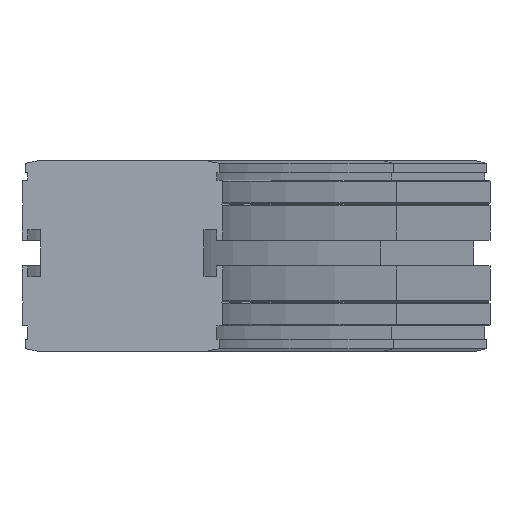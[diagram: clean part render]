
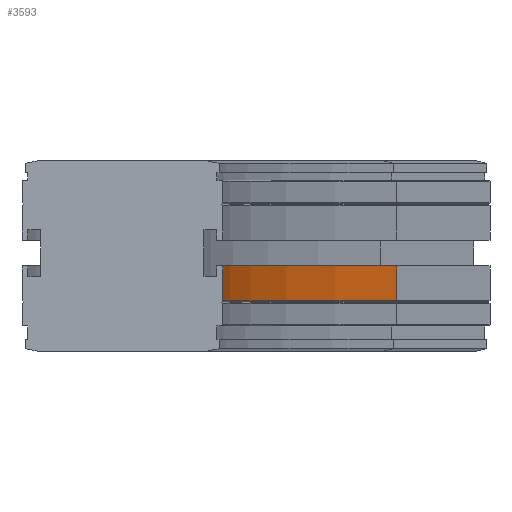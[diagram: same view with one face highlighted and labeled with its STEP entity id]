
A CAD part, left-side view. The second image highlights one B-rep face of the part: STEP entity #3593.
In plain terms, the highlighted cylindrical face has radius 557 mm (diameter 1114 mm), a partial arc.
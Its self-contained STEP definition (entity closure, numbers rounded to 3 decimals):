
#2261=CARTESIAN_POINT('',(358.5,-117.624,-60.));
#2262=VERTEX_POINT('',#2261);
#2292=CARTESIAN_POINT('',(358.5,-117.624,-45.));
#2293=VERTEX_POINT('',#2292);
#2300=CARTESIAN_POINT('',(358.5,-117.624,-60.));
#2301=DIRECTION('',(0.0,0.0,1.0));
#2302=VECTOR('',#2301,15.0);
#2303=LINE('',#2300,#2302);
#2304=EDGE_CURVE('',#2262,#2293,#2303,.T.);
#3550=CARTESIAN_POINT('',(80.0,-43.0,-60.));
#3551=VERTEX_POINT('',#3550);
#3552=CARTESIAN_POINT('',(80.0,-600.0,-60.));
#3553=DIRECTION('',(0.0,0.0,-1.));
#3554=DIRECTION('',(-0.5,-0.866,0.0));
#3555=AXIS2_PLACEMENT_3D('',#3552,#3553,#3554);
#3556=CIRCLE('',#3555,557.);
#3557=EDGE_CURVE('',#3551,#2262,#3556,.T.);
#3569=CARTESIAN_POINT('',(80.0,-600.0,-52.5));
#3570=DIRECTION('',(0.0,0.0,-1.0));
#3571=DIRECTION('',(-0.5,-0.866,0.0));
#3572=AXIS2_PLACEMENT_3D('',#3569,#3570,#3571);
#3573=CYLINDRICAL_SURFACE('',#3572,557.);
#3574=ORIENTED_EDGE('',*,*,#2304,.T.);
#3575=CARTESIAN_POINT('',(80.0,-43.0,-45.));
#3576=VERTEX_POINT('',#3575);
#3577=CARTESIAN_POINT('',(80.0,-600.0,-45.));
#3578=DIRECTION('',(0.0,0.0,-1.));
#3579=DIRECTION('',(-0.5,-0.866,0.0));
#3580=AXIS2_PLACEMENT_3D('',#3577,#3578,#3579);
#3581=CIRCLE('',#3580,557.);
#3582=EDGE_CURVE('',#3576,#2293,#3581,.T.);
#3583=ORIENTED_EDGE('',*,*,#3582,.F.);
#3584=CARTESIAN_POINT('',(80.0,-43.0,-60.));
#3585=DIRECTION('',(0.0,0.0,1.0));
#3586=VECTOR('',#3585,15.0);
#3587=LINE('',#3584,#3586);
#3588=EDGE_CURVE('',#3551,#3576,#3587,.T.);
#3589=ORIENTED_EDGE('',*,*,#3588,.F.);
#3590=ORIENTED_EDGE('',*,*,#3557,.T.);
#3591=EDGE_LOOP('',(#3574,#3583,#3589,#3590));
#3592=FACE_OUTER_BOUND('',#3591,.T.);
#3593=ADVANCED_FACE('',(#3592),#3573,.F.);
